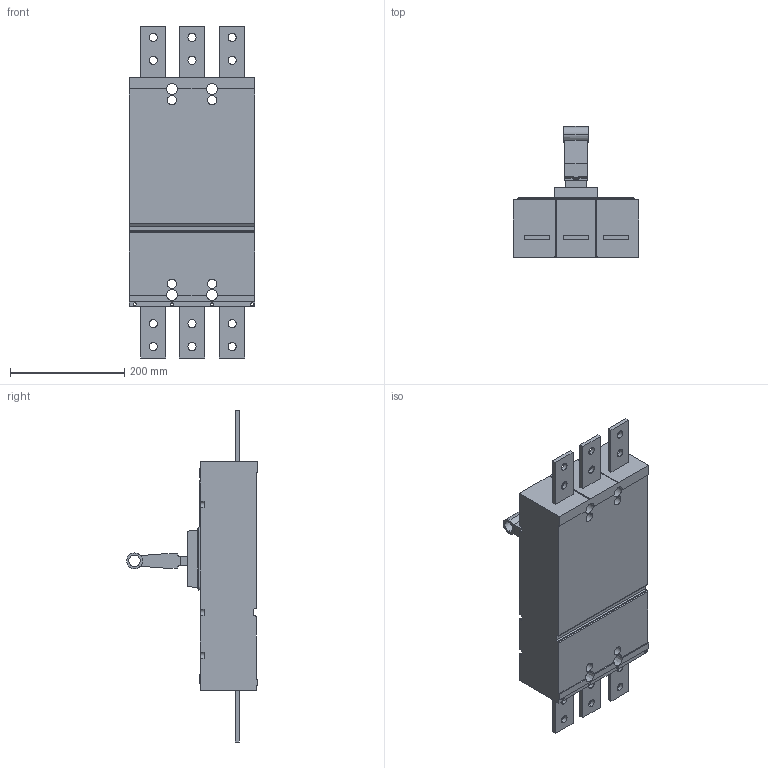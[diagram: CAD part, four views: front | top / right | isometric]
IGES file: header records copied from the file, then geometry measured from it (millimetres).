
Start section:  PTC IGES file: 30-metasol-mccb-1200af-3pelec.igs
Global section: file name: 30-metasol-mccb-1200af-3pelec.igs; native system: Pro/ENGINEER by Parametric Technology Corporation; preprocessor: 2010280; author: mgkimb; organization: Unknown; date: 20131029.143346; units: millimetre
Bounding box: 220 x 228.65 x 580 mm (x, y, z)
Surface area: 439184.4 mm2 (no closed solid volume)
Topology: 0 solids, 0 shells, 480 faces, 2598 edges, 2598 vertices
Faces by surface type: bspline 366, revolution 114
